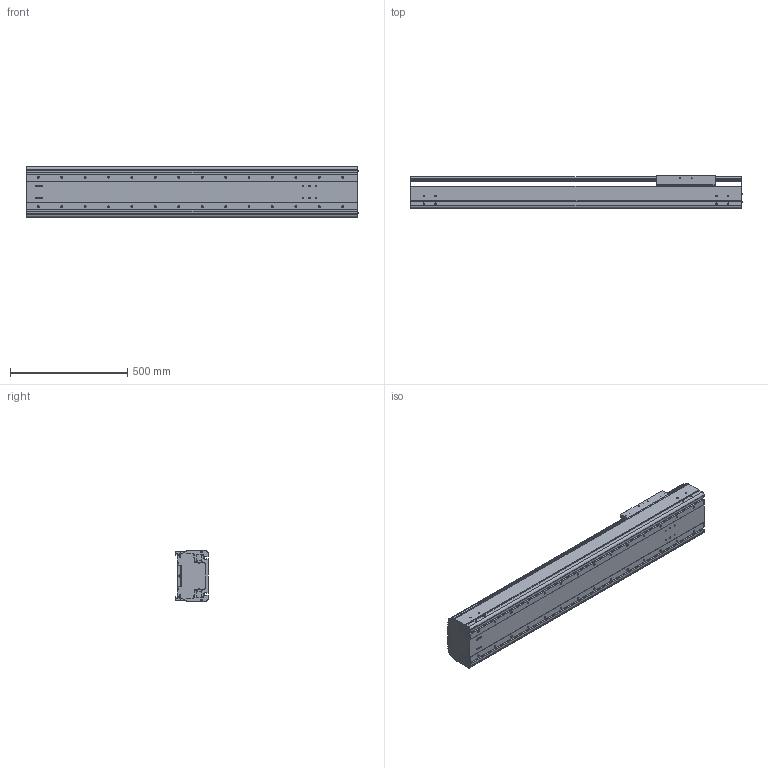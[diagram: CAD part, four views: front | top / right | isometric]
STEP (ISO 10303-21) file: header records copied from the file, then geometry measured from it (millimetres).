
FILE_DESCRIPTION((''),'2;1');
FILE_NAME('BE60G-ST-M_N-A0_IGS_PRT','2017-06-18T',(' '),(''),'PRO/ENGINEER BY PARAMETRIC TECHNOLOGY CORPORATION, 2015030','PRO/ENGINEER BY PARAMETRIC TECHNOLOGY CORPORATION, 2015030','');
FILE_SCHEMA(('CONFIG_CONTROL_DESIGN'));
Length unit declared in the file: millimetre
Products named in the file (1): BE60G-ST-M_N-A0_IGS_PRT
Bounding box: 1417.4 x 140 x 214 mm (x, y, z)
Volume: 11343914.1 mm3; surface area: 3026076.8 mm2
Topology: 2 solids, 142 shells, 1568 faces, 4376 edges, 2874 vertices
Faces by surface type: cylinder 800, plane 612, cone 108, sphere 24, torus 24
Entity records: 52284 total; most frequent: CARTESIAN_POINT 11780, DIRECTION 8514, ORIENTED_EDGE 7992, EDGE_CURVE 4272, AXIS2_PLACEMENT_3D 3169, VERTEX_POINT 2874, VECTOR 2176, LINE 2176
